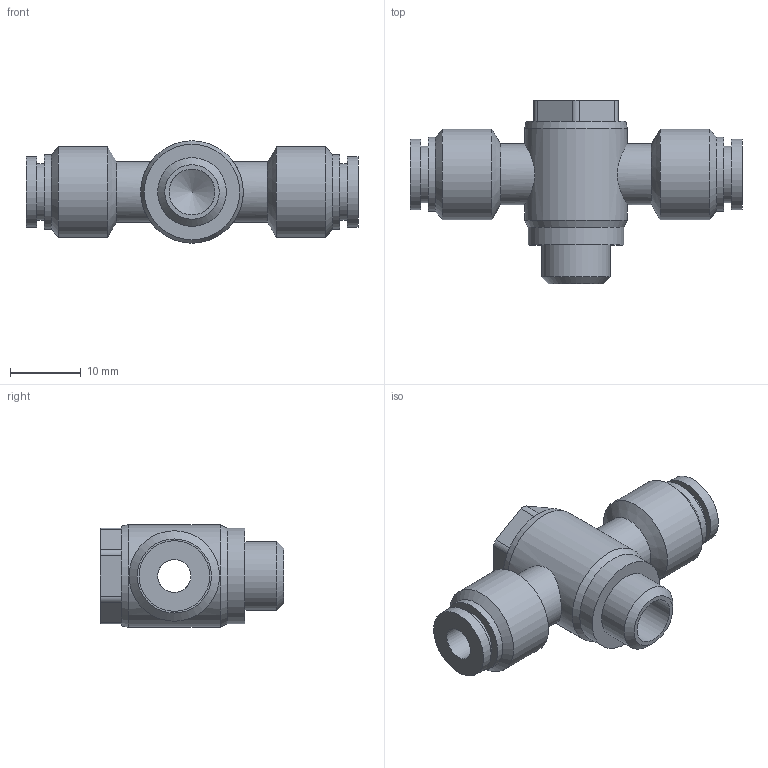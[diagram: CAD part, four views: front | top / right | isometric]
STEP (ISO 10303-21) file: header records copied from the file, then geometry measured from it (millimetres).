
FILE_DESCRIPTION(/* description */ (''),/* implementation_level */ '2;1');
FILE_NAME(/* name */ 'S:\UTecnico\ArchivioUT\Speciali Clienti\Speciali KONFIT\DISEGNI 3D\RP\RP 66\RP661804.stp',/* time_stamp */ '2013-08-01T09:03:33+02:00',/* author */ ('UT5'),/* organization */ (''),/* preprocessor_version */ 'ST-DEVELOPER v15.2',/* originating_system */ 'Autodesk Inventor 2014',/* authorisation */ '');
FILE_SCHEMA (('AUTOMOTIVE_DESIGN { 1 0 10303 214 3 1 1 }'));
Length unit declared in the file: millimetre
Products named in the file (1): RP661804
Bounding box: 47 x 26 x 14.5 mm (x, y, z)
Volume: 5449.1 mm3; surface area: 3720.1 mm2
Topology: 1 solids, 1 shells, 46 faces, 105 edges, 67 vertices
Faces by surface type: cylinder 22, plane 16, cone 8
Full cylindrical faces by diameter (mm): 4.698 x2, 6.5 x1, 8 x2, 8.6 x2, 9.728 x1, 10 x2, 10.5 x2, 12.8 x2, 13.5 x1, 14.5 x1
Entity records: 1270 total; most frequent: CARTESIAN_POINT 307, DIRECTION 202, ORIENTED_EDGE 140, AXIS2_PLACEMENT_3D 89, EDGE_LOOP 82, EDGE_CURVE 70, VERTEX_POINT 58, ADVANCED_FACE 46
